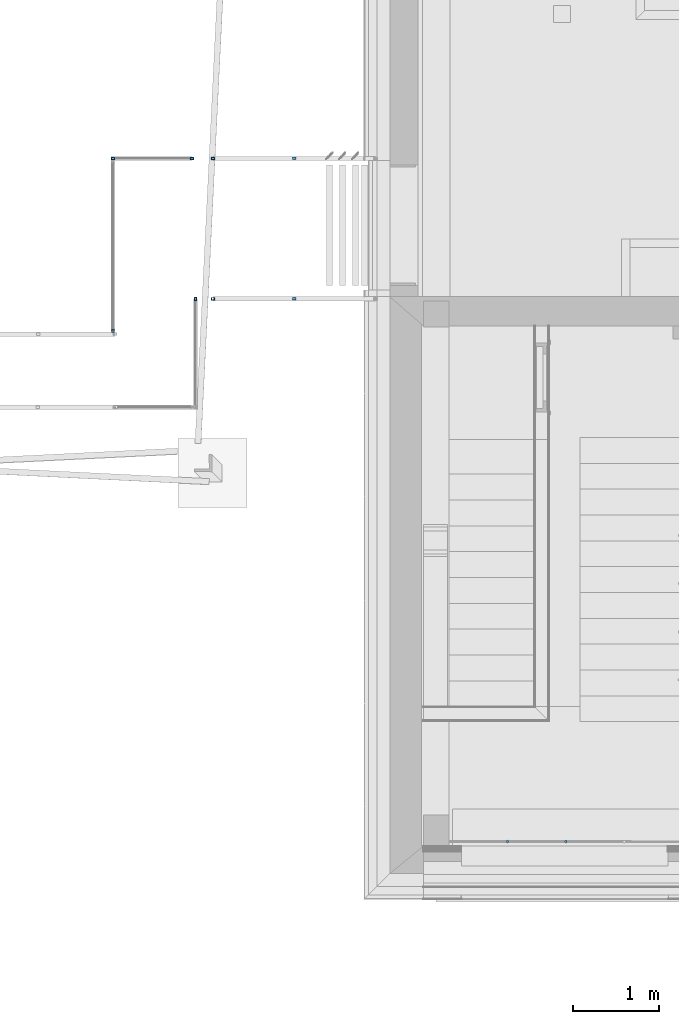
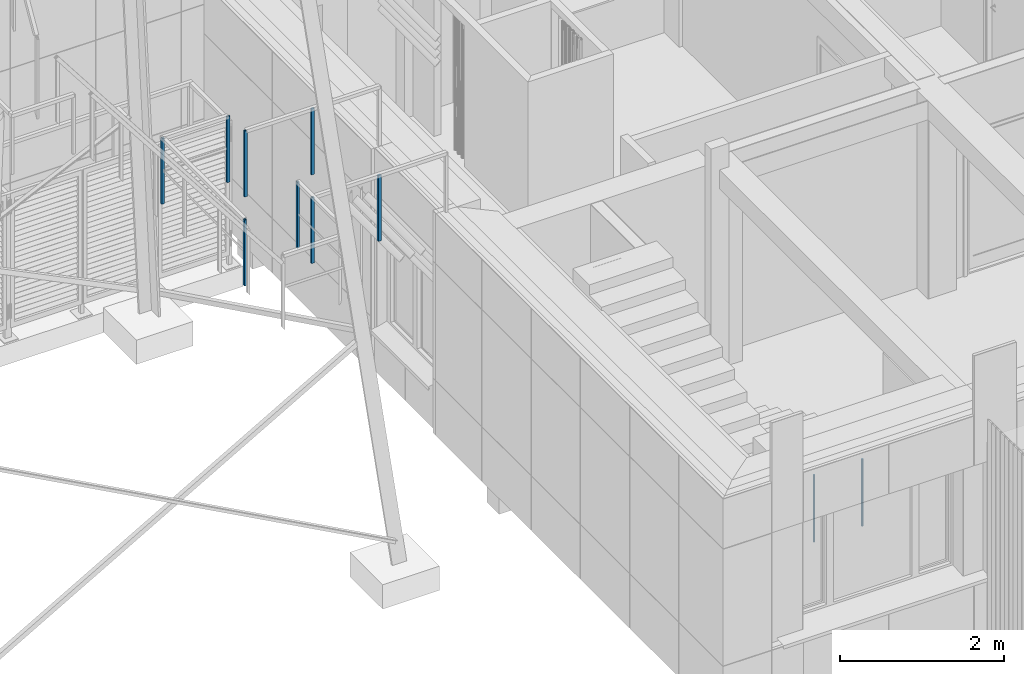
# One storey, part 16 of 418: 10 members, 5 elements without a shape of their own.
"""IFC2X3 building model written with IfcOpenShell, lengths in millimetres."""

from ifc_helpers import new_model, entity, si_unit, converted_unit, derived_unit, money_unit, direction, frame, origin_with_axes, place, context, subcontext, project, spatial, faceted_brep, source, transform, mapped, material, type_object, element, aggregate, save


model = new_model("IFC2X3")

# Units and contexts
model_context = context("Model", 3, precision=0.01, world=origin_with_axes(), true_north=direction((0.0, 1.0)))
body_context = subcontext(model_context, "Body", "Model", "MODEL_VIEW")
ifc_project = project(units=[si_unit("LENGTHUNIT", "METRE", prefix="MILLI"), si_unit("AREAUNIT", "SQUARE_METRE"), si_unit("VOLUMEUNIT", "CUBIC_METRE"), converted_unit("PLANEANGLEUNIT", "DEGREE", entity("IfcPlaneAngleMeasure", 0.0174532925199), si_unit("PLANEANGLEUNIT", "RADIAN"), dimensions=[0, 0, 0, 0, 0, 0, 0]), si_unit("SOLIDANGLEUNIT", "STERADIAN"), money_unit("EUR"), converted_unit("TIMEUNIT", "Year", entity("IfcTimeMeasure", 31556926.0), si_unit("TIMEUNIT", "SECOND"), dimensions=[0, 0, 1, 0, 0, 0, 0]), si_unit("MASSUNIT", "GRAM", prefix="KILO"), si_unit("THERMODYNAMICTEMPERATUREUNIT", "DEGREE_CELSIUS"), si_unit("LUMINOUSINTENSITYUNIT", "LUMEN"), si_unit("ENERGYUNIT", "JOULE", prefix="MEGA"), derived_unit("THERMALCONDUCTANCEUNIT", [(si_unit("POWERUNIT", "WATT"), 1), (si_unit("LENGTHUNIT", "METRE"), -1), (si_unit("THERMODYNAMICTEMPERATUREUNIT", "KELVIN"), -1)]), derived_unit("SPECIFICHEATCAPACITYUNIT", [(si_unit("ENERGYUNIT", "JOULE"), 1), (si_unit("MASSUNIT", "GRAM", prefix="KILO"), -1), (si_unit("THERMODYNAMICTEMPERATUREUNIT", "KELVIN"), -1)]), derived_unit("MASSDENSITYUNIT", [(si_unit("MASSUNIT", "GRAM", prefix="KILO"), 1), (si_unit("VOLUMEUNIT", "CUBIC_METRE"), -1)])], contexts=[model_context])

# Site, building, storey
site_placement = place(None, origin_with_axes())
site = spatial("IfcSite", under=ifc_project, at=site_placement, Name="Paldiski mnt 245/1, Tallinn, Harjumaa", CompositionType="COMPLEX")
building_placement = place(site_placement, origin_with_axes())
building = spatial("IfcBuilding", under=site, at=building_placement, Name="RKAS Hoone üldnimetus (kasutust iseloomustav) -> IFC Project Manager -> SOLIBRI", CompositionType="ELEMENT")
storey_placement = place(building_placement, origin_with_axes())
storey = spatial("IfcBuildingStorey", under=building, at=storey_placement, Name="Esimene korrus", CompositionType="ELEMENT", Elevation=0.0)

# Railing, members
railing_type = type_object("IfcRailingType", Name="Railing Type", PredefinedType="NOTDEFINED")
railing_1_placement = place(storey_placement, frame((-47325.2205646, -12456.5621002, 1891.0), z_axis=(0.0, 0.0, 1.0), x_axis=(-0.773149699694, -0.634223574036, 0.0)))
railing_1 = element("IfcRailing", 1, at=railing_1_placement, inside=storey, type_object=railing_type, Name="PIIRE", PredefinedType="NOTDEFINED")
ifc_material_1 = material(Name="ET-07_Teras - Roostevaba")
member_type = type_object("IfcMemberType", Name="IfcMember", PredefinedType="POST")
shared_shape_1 = source(origin_with_axes(), body_context, "Body", "Brep", [
    faceted_brep([(0.0, -15.0, 0.0), (2.604722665, -14.7721162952, 0.0), (2.604722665, -14.7721162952, 994.749083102), (0.0, -15.0, 994.749083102), (-2.604722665, -14.7721162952, 0.0), (-5.13030214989, -14.0953893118, 0.0), (-7.5, -12.9903810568, 0.0), (-9.6418141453, -11.4906666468, 0.0), (-11.4906666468, -9.6418141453, 0.0), (-12.9903810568, -7.5, 0.0), (-14.0953893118, -5.13030214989, 0.0), (-14.7721162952, -2.604722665, 0.0), (-15.0, 0.0, 0.0), (-14.7721162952, 2.604722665, 0.0), (-14.0953893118, 5.13030214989, 0.0), (-12.9903810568, 7.5, 0.0), (-11.4906666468, 9.6418141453, 0.0), (-9.6418141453, 11.4906666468, 0.0), (-7.5, 12.9903810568, 0.0), (-5.13030214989, 14.0953893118, 0.0), (-2.604722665, 14.7721162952, 0.0), (0.0, 15.0, 0.0), (2.604722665, 14.7721162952, 0.0), (5.13030214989, 14.0953893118, 0.0), (7.5, 12.9903810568, 0.0), (9.6418141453, 11.4906666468, 0.0), (11.4906666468, 9.6418141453, 0.0), (12.9903810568, 7.5, 0.0), (14.0953893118, 5.13030214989, 0.0), (14.7721162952, 2.604722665, 0.0), (15.0, 0.0, 0.0), (14.7721162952, -2.604722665, 0.0), (14.0953893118, -5.13030214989, 0.0), (12.9903810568, -7.5, 0.0), (11.4906666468, -9.6418141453, 0.0), (9.6418141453, -11.4906666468, 0.0), (7.5, -12.9903810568, 0.0), (5.13030214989, -14.0953893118, 0.0), (5.13030214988, -14.0953893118, 994.749083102), (7.5, -12.9903810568, 994.749083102), (9.64181414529, -11.4906666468, 994.749083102), (11.4906666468, -9.6418141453, 994.749083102), (12.9903810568, -7.5, 994.749083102), (14.0953893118, -5.13030214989, 994.749083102), (14.7721162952, -2.604722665, 994.749083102), (15.0, 0.0, 994.749083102), (14.7721162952, 2.604722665, 994.749083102), (14.0953893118, 5.13030214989, 994.749083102), (12.9903810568, 7.5, 994.749083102), (11.4906666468, 9.6418141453, 994.749083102), (9.64181414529, 11.4906666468, 994.749083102), (7.5, 12.9903810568, 994.749083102), (5.13030214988, 14.0953893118, 994.749083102), (2.604722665, 14.7721162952, 994.749083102), (0.0, 15.0, 994.749083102), (-2.60472266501, 14.7721162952, 994.749083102), (-5.13030214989, 14.0953893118, 994.749083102), (-7.5, 12.9903810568, 994.749083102), (-9.6418141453, 11.4906666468, 994.749083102), (-11.4906666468, 9.6418141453, 994.749083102), (-12.9903810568, 7.5, 994.749083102), (-14.0953893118, 5.13030214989, 994.749083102), (-14.7721162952, 2.604722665, 994.749083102), (-15.0, 0.0, 994.749083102), (-14.7721162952, -2.604722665, 994.749083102), (-14.0953893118, -5.13030214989, 994.749083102), (-12.9903810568, -7.5, 994.749083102), (-11.4906666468, -9.6418141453, 994.749083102), (-9.6418141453, -11.4906666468, 994.749083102), (-7.5, -12.9903810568, 994.749083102), (-5.13030214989, -14.0953893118, 994.749083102), (-2.60472266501, -14.7721162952, 994.749083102)], [[[0, 1, 2, 3]], [[0, 4, 5, 6, 7, 8, 9, 10, 11, 12, 13, 14, 15, 16, 17, 18, 19, 20, 21, 22, 23, 24, 25, 26, 27, 28, 29, 30, 31, 32, 33, 34, 35, 36, 37, 1]], [[1, 37, 38, 2]], [[3, 2, 38, 39, 40, 41, 42, 43, 44, 45, 46, 47, 48, 49, 50, 51, 52, 53, 54, 55, 56, 57, 58, 59, 60, 61, 62, 63, 64, 65, 66, 67, 68, 69, 70, 71]], [[4, 0, 3, 71]], [[5, 4, 71, 70]], [[6, 5, 70, 69]], [[7, 6, 69, 68]], [[8, 7, 68, 67]], [[9, 8, 67, 66]], [[10, 9, 66, 65]], [[11, 10, 65, 64]], [[12, 11, 64, 63]], [[13, 12, 63, 62]], [[14, 13, 62, 61]], [[15, 14, 61, 60]], [[16, 15, 60, 59]], [[17, 16, 59, 58]], [[18, 17, 58, 57]], [[19, 18, 57, 56]], [[20, 19, 56, 55]], [[21, 20, 55, 54]], [[22, 21, 54, 53]], [[23, 22, 53, 52]], [[24, 23, 52, 51]], [[25, 24, 51, 50]], [[26, 25, 50, 49]], [[27, 26, 49, 48]], [[28, 27, 48, 47]], [[29, 28, 47, 46]], [[30, 29, 46, 45]], [[31, 30, 45, 44]], [[32, 31, 44, 43]], [[33, 32, 43, 42]], [[34, 33, 42, 41]], [[35, 34, 41, 40]], [[36, 35, 40, 39]], [[37, 36, 39, 38]]]),
])
member_1_placement = place(railing_1_placement, frame((-550.895279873, 452.551505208, -214.749083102), z_axis=(0.0, 0.0, 1.0), x_axis=(-0.773149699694, 0.634223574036, 0.0)))
member_1 = element("IfcMember", 2, at=member_1_placement, type_object=member_type, material=ifc_material_1, Name="Piirde Post - 001", ObjectType="POST", context=body_context, shape_type="MappedRepresentation", body=[
    mapped(shared_shape_1, transform((0.0, 0.0, 0.0), x_axis=(-0.000698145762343, -0.999999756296, 0.0), y_axis=(0.999999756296, -0.000698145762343, 0.0), z_axis=(0.0, 0.0, 1.0))),
])
member_2_placement = place(railing_1_placement, frame((-1074.57636786, 882.745089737, -214.749083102), z_axis=(0.0, 0.0, 1.0), x_axis=(-0.773149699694, 0.634223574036, 0.0)))
member_2 = element("IfcMember", 3, at=member_2_placement, type_object=member_type, material=ifc_material_1, Name="Piirde Post - 001", ObjectType="POST", context=body_context, shape_type="MappedRepresentation", body=[
    mapped(shared_shape_1, transform((0.0, 0.0, 0.0), x_axis=(-0.000698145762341, -0.999999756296, 0.0), y_axis=(0.999999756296, -0.000698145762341, 0.0), z_axis=(0.0, 0.0, 1.0))),
])
aggregate(railing_1, [member_1, member_2])

# Railing, member
railing_2_placement = place(storey_placement, frame((-48119.0152059, -4525.08408706, 3300.0), z_axis=(0.0, 0.0, 1.0), x_axis=(-0.773149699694, -0.634223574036, 0.0)))
railing_2 = element("IfcRailing", 4, at=railing_2_placement, inside=storey, type_object=railing_type, Name="PIIRE", PredefinedType="NOTDEFINED")
ifc_material_2 = material(Name="ET-06_Teras - Konstruktsioon")
shared_shape_2 = source(origin_with_axes(), body_context, "Body", "Brep", [
    faceted_brep([(15.0, 20.0, 0.0), (-15.0, 20.0, 0.0), (-15.0, 20.0, 980.0), (15.0, 20.0, 980.0), (15.0, -20.0, 0.0), (-15.0, -20.0, 0.0), (10.0, 15.0, 0.0), (-10.0, 15.0, 0.0), (-10.0, -15.0, 0.0), (10.0, -15.0, 0.0), (-15.0, -20.0, 980.0), (15.0, -20.0, 980.0), (10.0, 15.0, 980.0), (10.0, -15.0, 980.0), (-10.0, -15.0, 980.0), (-10.0, 15.0, 980.0)], [[[0, 1, 2, 3]], [[0, 4, 5, 1], [6, 7, 8, 9]], [[1, 5, 10, 2]], [[3, 2, 10, 11], [12, 13, 14, 15]], [[4, 0, 3, 11]], [[5, 4, 11, 10]], [[7, 6, 12, 15]], [[8, 7, 15, 14]], [[9, 8, 14, 13]], [[6, 9, 13, 12]]]),
])
member_3_placement = place(railing_2_placement, frame((1477.94573503, -1212.37585254, -100.0), z_axis=(0.0, 0.0, 1.0), x_axis=(-0.773149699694, 0.634223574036, 0.0)))
member_3 = element("IfcMember", 5, at=member_3_placement, type_object=member_type, material=ifc_material_2, Name="PIIRDE POST - 001", ObjectType="POST", context=body_context, shape_type="MappedRepresentation", body=[
    mapped(shared_shape_2, transform((0.0, 0.0, 0.0), x_axis=(0.0, 1.0, 0.0), y_axis=(-1.0, 0.0, 0.0), z_axis=(0.0, 0.0, 1.0))),
])

# Railing, members
railing_3_placement = place(storey_placement, frame((-50030.6058534, -4525.08408706, 3600.0), z_axis=(0.0, 0.0, 1.0), x_axis=(-0.773149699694, -0.634223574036, 0.0)))
railing_3 = element("IfcRailing", 6, at=railing_3_placement, inside=storey, type_object=railing_type, Name="PIIRE", PredefinedType="NOTDEFINED")
member_4_placement = place(railing_3_placement, frame((188.978183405, -155.020973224, -100.0), z_axis=(0.0, 0.0, 1.0), x_axis=(-0.773149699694, 0.634223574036, 0.0)))
member_4 = element("IfcMember", 7, at=member_4_placement, type_object=member_type, material=ifc_material_2, Name="PIIRDE POST - 001", ObjectType="POST", context=body_context, shape_type="MappedRepresentation", body=[
    mapped(shared_shape_2, transform((0.0, 0.0, 0.0), x_axis=(0.0, 1.0, 0.0), y_axis=(-1.0, 0.0, 0.0), z_axis=(0.0, 0.0, 1.0))),
])
member_5_placement = place(railing_3_placement, frame((900.154755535, -738.407279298, -100.0), z_axis=(0.0, 0.0, 1.0), x_axis=(-0.773149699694, 0.634223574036, 0.0)))
member_5 = element("IfcMember", 8, at=member_5_placement, type_object=member_type, material=ifc_material_2, Name="PIIRDE POST - 001", ObjectType="POST", context=body_context, shape_type="MappedRepresentation", body=[
    mapped(shared_shape_2, transform((0.0, 0.0, 0.0), x_axis=(0.0, 1.0, 0.0), y_axis=(-1.0, 0.0, 0.0), z_axis=(0.0, 0.0, 1.0))),
])
member_6_placement = place(railing_3_placement, frame((2169.03264335, 808.417213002, -100.0), z_axis=(0.0, 0.0, 1.0), x_axis=(-0.773149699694, 0.634223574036, 0.0)))
member_6 = element("IfcMember", 9, at=member_6_placement, type_object=member_type, material=ifc_material_2, Name="PIIRDE POST - 001", ObjectType="POST", context=body_context, shape_type="MappedRepresentation", body=[
    mapped(shared_shape_2, transform((0.0, 0.0, 0.0), x_axis=(-1.0, 0.0, 0.0), y_axis=(0.0, -1.0, 0.0), z_axis=(0.0, 0.0, 1.0))),
])
aggregate(railing_3, [member_4, member_5, member_6])

# Railing, member
railing_4_placement = place(storey_placement, frame((-48119.0152059, -6155.24631697, 3300.0), z_axis=(0.0, 0.0, 1.0), x_axis=(-0.773149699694, -0.634223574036, 0.0)))
railing_4 = element("IfcRailing", 10, at=railing_4_placement, inside=storey, type_object=railing_type, Name="PIIRE", PredefinedType="NOTDEFINED")
member_7_placement = place(railing_4_placement, frame((1477.94573503, -1212.37585254, -100.0), z_axis=(0.0, 0.0, 1.0), x_axis=(-0.773149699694, 0.634223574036, 0.0)))
member_7 = element("IfcMember", 11, at=member_7_placement, type_object=member_type, material=ifc_material_2, Name="PIIRDE POST - 001", ObjectType="POST", context=body_context, shape_type="MappedRepresentation", body=[
    mapped(shared_shape_2, transform((0.0, 0.0, 0.0), x_axis=(0.0, 1.0, 0.0), y_axis=(-1.0, 0.0, 0.0), z_axis=(0.0, 0.0, 1.0))),
])

railing_5_placement = place(storey_placement, frame((-50030.6058534, -6155.24631697, 3600.0), z_axis=(0.0, 0.0, 1.0), x_axis=(-0.773149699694, -0.634223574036, 0.0)))
railing_5 = element("IfcRailing", 12, at=railing_5_placement, inside=storey, type_object=railing_type, Name="PIIRE", PredefinedType="NOTDEFINED")
member_8_placement = place(railing_5_placement, frame((158.495688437, -130.015832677, -100.0), z_axis=(0.0, 0.0, 1.0), x_axis=(-0.773149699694, 0.634223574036, 0.0)))
member_8 = element("IfcMember", 13, at=member_8_placement, type_object=member_type, material=ifc_material_2, Name="PIIRDE POST - 001", ObjectType="POST", context=body_context, shape_type="MappedRepresentation", body=[
    mapped(shared_shape_2, transform((0.0, 0.0, 0.0), x_axis=(-1.0, 0.0, 0.0), y_axis=(0.0, -1.0, 0.0), z_axis=(0.0, 0.0, 1.0))),
])
aggregate(railing_5, [member_8])

# Member
shared_shape_3 = source(origin_with_axes(), body_context, "Body", "Brep", [
    faceted_brep([(15.0, 20.0, 0.0), (-15.0, 20.0, 0.0), (-15.0, 20.0, 980.0), (15.0, 20.0, 980.0), (15.0, -20.0, 0.0), (-15.0, -20.0, 0.0), (-15.0, -20.0, 980.0), (15.0, -20.0, 980.0)], [[[0, 1, 2, 3]], [[0, 4, 5, 1]], [[1, 5, 6, 2]], [[3, 2, 6, 7]], [[4, 0, 3, 7]], [[5, 4, 7, 6]]]),
])
member_9_placement = place(railing_2_placement, frame((750.136337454, -615.345448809, -100.0), z_axis=(0.0, 0.0, 1.0), x_axis=(-0.773149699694, 0.634223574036, 0.0)))
member_9 = element("IfcMember", 14, at=member_9_placement, type_object=member_type, material=ifc_material_1, Name="Piirde Post - 001", ObjectType="POST", context=body_context, shape_type="MappedRepresentation", body=[
    mapped(shared_shape_3, transform((0.0, 0.0, 0.0), x_axis=(0.0, 1.0, 0.0), y_axis=(-1.0, 0.0, 0.0), z_axis=(0.0, 0.0, 1.0))),
])

aggregate(railing_2, [member_3, member_9])

member_10_placement = place(railing_4_placement, frame((750.136337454, -615.345448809, -100.0), z_axis=(0.0, 0.0, 1.0), x_axis=(-0.773149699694, 0.634223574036, 0.0)))
member_10 = element("IfcMember", 15, at=member_10_placement, type_object=member_type, material=ifc_material_1, Name="Piirde Post - 001", ObjectType="POST", context=body_context, shape_type="MappedRepresentation", body=[
    mapped(shared_shape_3, transform((0.0, 0.0, 0.0), x_axis=(0.0, 1.0, 0.0), y_axis=(-1.0, 0.0, 0.0), z_axis=(0.0, 0.0, 1.0))),
])

aggregate(railing_4, [member_7, member_10])

save(model, "model.ifc")
